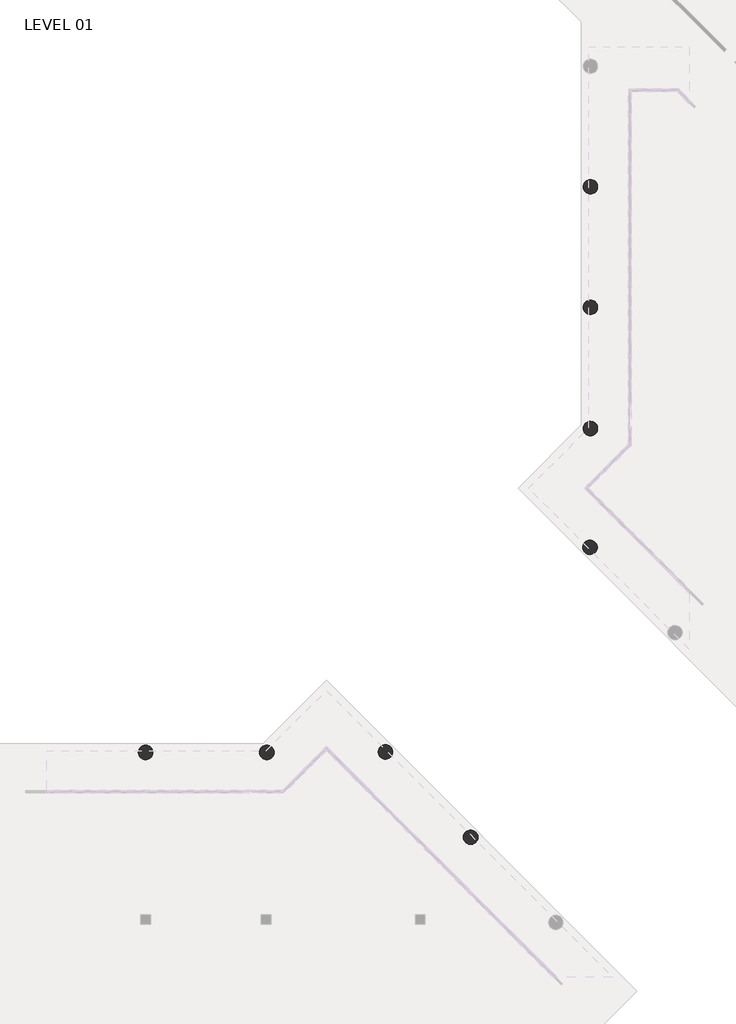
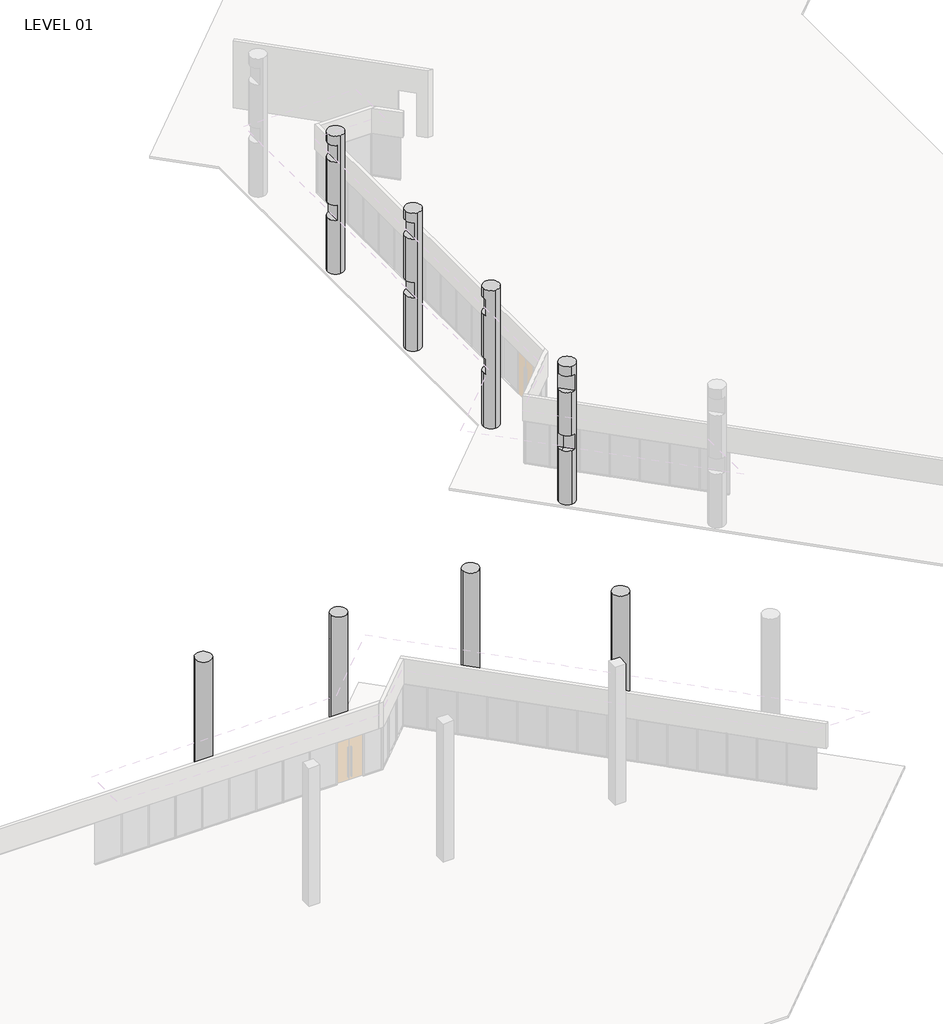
# One storey, part 20 of 24: 8 columns.
"""IFC4 building model written with IfcOpenShell, lengths in millimetres."""

from ifc_helpers import new_model, si_unit, frame, origin, place, context, project, spatial, circle_curve, element, save
from ifc_brep_helpers import plane_surface, cylinder_surface, advanced_brep

model = new_model("IFC4")

# Units and contexts
model_context = context("Model", 3, world=origin())
ifc_project = project(units=[si_unit("LENGTHUNIT", "METRE", prefix="MILLI")], contexts=[model_context])

# Site, building, storey
site = spatial("IfcSite", under=ifc_project)
building = spatial("IfcBuilding", under=site)
storey = spatial("IfcBuildingStorey", under=building, Name="LEVEL 01", Elevation=0.0)

# Columns
placement = place(None, origin())
element("IfcColumn", 1, ObjectType="Round Column : 36\" Diameter", at=placement, inside=storey, context=model_context, shape_type="AdvancedBrep", body=[
    advanced_brep(
    [(34093.15, 25578.4828721, 0.0), (33178.75, 25578.4828721, 0.0), (33635.95, 26035.6828721, 0.0), (34093.15, 25578.4828721, 8280.4), (33178.75, 25578.4828721, 8280.4), (33635.95, 26035.6828721, 8280.4), (33635.95, 26035.6828721, 7721.6), (33204.8977062, 25730.8828721, 7721.6), (33204.8977062, 25730.8828721, 6731.0), (33635.95, 26035.6828721, 6731.0), (33635.95, 26035.6828721, 4140.2), (33204.8977062, 25730.8828721, 4140.2), (33204.8977062, 25730.8828721, 3225.8), (33635.95, 26035.6828721, 3225.8), (34067.0022938, 25730.8828721, 3225.8), (34067.0022938, 25730.8828721, 4140.2), (34067.0022938, 25730.8828721, 6731.0), (34067.0022938, 25730.8828721, 7721.6)],
    [
        (0, 1, circle_curve(frame((33635.95, 25578.4828721, 0.0), z_axis=(0.0, 0.0, -1.0), x_axis=(1.0, 0.0, 0.0)), 457.2)),
        (1, 2, circle_curve(frame((33635.95, 25578.4828721, 0.0), z_axis=(0.0, 0.0, -1.0), x_axis=(1.0, 0.0, 0.0)), 457.2)),
        (2, 0, circle_curve(frame((33635.95, 25578.4828721, 0.0), z_axis=(0.0, 0.0, -1.0), x_axis=(1.0, 0.0, 0.0)), 457.2)),
        (0, 3),
        (3, 4, circle_curve(frame((33635.95, 25578.4828721, 8280.4), z_axis=(0.0, 0.0, -1.0), x_axis=(1.0, 0.0, 0.0)), 457.2)),
        (4, 1),
        (4, 5, circle_curve(frame((33635.95, 25578.4828721, 8280.4), z_axis=(0.0, 0.0, -1.0), x_axis=(1.0, 0.0, 0.0)), 457.2)),
        (5, 6),
        (6, 7, circle_curve(frame((33635.95, 25578.4828721, 7721.6), z_axis=(0.0, 0.0, 1.0), x_axis=(1.0, 0.0, 0.0)), 457.2)),
        (7, 8),
        (8, 9, circle_curve(frame((33635.95, 25578.4828721, 6731.0), z_axis=(0.0, 0.0, -1.0), x_axis=(1.0, 0.0, 0.0)), 457.2)),
        (9, 10),
        (10, 11, circle_curve(frame((33635.95, 25578.4828721, 4140.2), z_axis=(0.0, 0.0, 1.0), x_axis=(1.0, 0.0, 0.0)), 457.2)),
        (11, 12),
        (12, 13, circle_curve(frame((33635.95, 25578.4828721, 3225.8), z_axis=(0.0, 0.0, -1.0), x_axis=(1.0, 0.0, 0.0)), 457.2)),
        (13, 2),
        (13, 14, circle_curve(frame((33635.95, 25578.4828721, 3225.8), z_axis=(0.0, 0.0, -1.0), x_axis=(1.0, 0.0, 0.0)), 457.2)),
        (14, 15),
        (15, 10, circle_curve(frame((33635.95, 25578.4828721, 4140.2), z_axis=(0.0, 0.0, 1.0), x_axis=(1.0, 0.0, 0.0)), 457.2)),
        (9, 16, circle_curve(frame((33635.95, 25578.4828721, 6731.0), z_axis=(0.0, 0.0, -1.0), x_axis=(1.0, 0.0, 0.0)), 457.2)),
        (16, 17),
        (17, 6, circle_curve(frame((33635.95, 25578.4828721, 7721.6), z_axis=(0.0, 0.0, 1.0), x_axis=(1.0, 0.0, 0.0)), 457.2)),
        (5, 3, circle_curve(frame((33635.95, 25578.4828721, 8280.4), z_axis=(0.0, 0.0, -1.0), x_axis=(1.0, 0.0, 0.0)), 457.2)),
        (11, 15),
        (14, 12),
        (7, 17),
        (16, 8),
    ],
    [
        plane_surface(frame((34093.15, 25578.4828721, 0.0), z_axis=(0.0, 0.0, -1.0), x_axis=(0.0, -1.0, 0.0))),
        cylinder_surface(frame((33635.95, 25578.4828721, 0.0), z_axis=(0.0, 0.0, 1.0), x_axis=(1.0, 0.0, 0.0)), 457.2),
        plane_surface(frame((34093.15, 25578.4828721, 8280.4), z_axis=(0.0, 0.0, 1.0), x_axis=(0.0, 1.0, 0.0))),
        plane_surface(frame((15533.4616237, 25730.8828721, 3225.8), z_axis=(0.0, 1.0, 0.0), x_axis=(1.0, 0.0, 0.0))),
        plane_surface(frame((10691.7818041, 25730.8828721, 3225.8), z_axis=(0.0, 0.0, 1.0), x_axis=(0.0, 1.0, 0.0))),
        plane_surface(frame((41171.7818041, 25730.8828721, 4140.2), z_axis=(0.0, 0.0, -1.0), x_axis=(0.0, 1.0, 0.0))),
        plane_surface(frame((15533.4616237, 25730.8828721, 6731.0), z_axis=(0.0, 1.0, 0.0), x_axis=(1.0, 0.0, 0.0))),
        plane_surface(frame((10691.7818041, 25730.8828721, 6731.0), z_axis=(0.0, 0.0, 1.0), x_axis=(0.0, 1.0, 0.0))),
        plane_surface(frame((41171.7818041, 25730.8828721, 7721.6), z_axis=(0.0, 0.0, -1.0), x_axis=(0.0, 1.0, 0.0))),
    ],
    [
        (0, [[1, 2, 3]]),
        (1, [[-1, 4, 5, 6]]),
        (1, [[-2, -6, 7, 8, 9, 10, 11, 12, 13, 14, 15, 16]]),
        (1, [[-3, -16, 17, 18, 19, -12, 20, 21, 22, -8, 23, -4]]),
        (2, [[-5, -23, -7]]),
        (3, [[24, -18, 25, -14]]),
        (4, [[-25, -17, -15]]),
        (5, [[-24, -13, -19]]),
        (6, [[26, -21, 27, -10]]),
        (7, [[-27, -20, -11]]),
        (8, [[-26, -9, -22]]),
    ],
),
])
element("IfcColumn", 2, ObjectType="Round Column : 36\" Diameter", at=placement, inside=storey, context=model_context, shape_type="AdvancedBrep", body=[
    advanced_brep(
    [(41755.2340979, 25578.4828721, 0.0), (40840.8340979, 25578.4828721, 0.0), (41298.0340979, 26035.6828721, 0.0), (41755.2340979, 25578.4828721, 8280.4), (40840.8340979, 25578.4828721, 8280.4), (41298.0340979, 26035.6828721, 8280.4), (41298.0340979, 26035.6828721, 7721.6), (40866.9818041, 25730.8828721, 7721.6), (40866.9818041, 25730.8828721, 6731.0), (41298.0340979, 26035.6828721, 6731.0), (41298.0340979, 26035.6828721, 4140.2), (40866.9818041, 25730.8828721, 4140.2), (40866.9818041, 25730.8828721, 3225.8), (41298.0340979, 26035.6828721, 3225.8), (41495.0710245, 25991.0459456, 3225.8), (41495.0710245, 25991.0459456, 4140.2), (41495.0710245, 25991.0459456, 6731.0), (41495.0710245, 25991.0459456, 7721.6), (41234.907951, 25730.8828721, 4140.2), (41234.907951, 25730.8828721, 3225.8), (41234.907951, 25730.8828721, 7721.6), (41234.907951, 25730.8828721, 6731.0)],
    [
        (0, 1, circle_curve(frame((41298.0340979, 25578.4828721, 0.0), z_axis=(0.0, 0.0, -1.0), x_axis=(1.0, 0.0, 0.0)), 457.2)),
        (1, 2, circle_curve(frame((41298.0340979, 25578.4828721, 0.0), z_axis=(0.0, 0.0, -1.0), x_axis=(1.0, 0.0, 0.0)), 457.2)),
        (2, 0, circle_curve(frame((41298.0340979, 25578.4828721, 0.0), z_axis=(0.0, 0.0, -1.0), x_axis=(1.0, 0.0, 0.0)), 457.2)),
        (0, 3),
        (3, 4, circle_curve(frame((41298.0340979, 25578.4828721, 8280.4), z_axis=(0.0, 0.0, -1.0), x_axis=(1.0, 0.0, 0.0)), 457.2)),
        (4, 1),
        (4, 5, circle_curve(frame((41298.0340979, 25578.4828721, 8280.4), z_axis=(0.0, 0.0, -1.0), x_axis=(1.0, 0.0, 0.0)), 457.2)),
        (5, 6),
        (6, 7, circle_curve(frame((41298.0340979, 25578.4828721, 7721.6), z_axis=(0.0, 0.0, 1.0), x_axis=(1.0, 0.0, 0.0)), 457.2)),
        (7, 8),
        (8, 9, circle_curve(frame((41298.0340979, 25578.4828721, 6731.0), z_axis=(0.0, 0.0, -1.0), x_axis=(1.0, 0.0, 0.0)), 457.2)),
        (9, 10),
        (10, 11, circle_curve(frame((41298.0340979, 25578.4828721, 4140.2), z_axis=(0.0, 0.0, 1.0), x_axis=(1.0, 0.0, 0.0)), 457.2)),
        (11, 12),
        (12, 13, circle_curve(frame((41298.0340979, 25578.4828721, 3225.8), z_axis=(0.0, 0.0, -1.0), x_axis=(1.0, 0.0, 0.0)), 457.2)),
        (13, 2),
        (13, 14, circle_curve(frame((41298.0340979, 25578.4828721, 3225.8), z_axis=(0.0, 0.0, -1.0), x_axis=(1.0, 0.0, 0.0)), 457.2)),
        (14, 15),
        (15, 10, circle_curve(frame((41298.0340979, 25578.4828721, 4140.2), z_axis=(0.0, 0.0, 1.0), x_axis=(1.0, 0.0, 0.0)), 457.2)),
        (9, 16, circle_curve(frame((41298.0340979, 25578.4828721, 6731.0), z_axis=(0.0, 0.0, -1.0), x_axis=(1.0, 0.0, 0.0)), 457.2)),
        (16, 17),
        (17, 6, circle_curve(frame((41298.0340979, 25578.4828721, 7721.6), z_axis=(0.0, 0.0, 1.0), x_axis=(1.0, 0.0, 0.0)), 457.2)),
        (5, 3, circle_curve(frame((41298.0340979, 25578.4828721, 8280.4), z_axis=(0.0, 0.0, -1.0), x_axis=(1.0, 0.0, 0.0)), 457.2)),
        (11, 18),
        (18, 19),
        (19, 12),
        (19, 14),
        (15, 18),
        (20, 21),
        (21, 8),
        (7, 20),
        (21, 16),
        (17, 20),
    ],
    [
        plane_surface(frame((41755.2340979, 25578.4828721, 0.0), z_axis=(0.0, 0.0, -1.0), x_axis=(0.0, -1.0, 0.0))),
        cylinder_surface(frame((41298.0340979, 25578.4828721, 0.0), z_axis=(0.0, 0.0, 1.0), x_axis=(1.0, 0.0, 0.0)), 457.2),
        plane_surface(frame((41755.2340979, 25578.4828721, 8280.4), z_axis=(0.0, 0.0, 1.0), x_axis=(0.0, 1.0, 0.0))),
        plane_surface(frame((15533.4616237, 25730.8828721, 3225.8), z_axis=(0.0, 1.0, 0.0), x_axis=(1.0, 0.0, 0.0))),
        plane_surface(frame((10691.7818041, 25730.8828721, 3225.8), z_axis=(0.0, 0.0, 1.0), x_axis=(0.0, 1.0, 0.0))),
        plane_surface(frame((41171.7818041, 25730.8828721, 4140.2), z_axis=(0.0, 0.0, -1.0), x_axis=(0.0, 1.0, 0.0))),
        plane_surface(frame((41324.1818041, 25820.1567252, 3225.8), z_axis=(-0.7071067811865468, 0.7071067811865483, 0.0), x_axis=(0.7071067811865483, 0.7071067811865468, 0.0))),
        plane_surface(frame((15533.4616237, 25730.8828721, 6731.0), z_axis=(0.0, 1.0, 0.0), x_axis=(1.0, 0.0, 0.0))),
        plane_surface(frame((10691.7818041, 25730.8828721, 6731.0), z_axis=(0.0, 0.0, 1.0), x_axis=(0.0, 1.0, 0.0))),
        plane_surface(frame((41171.7818041, 25730.8828721, 7721.6), z_axis=(0.0, 0.0, -1.0), x_axis=(0.0, 1.0, 0.0))),
        plane_surface(frame((41324.1818041, 25820.1567252, 6731.0), z_axis=(-0.7071067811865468, 0.7071067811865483, 0.0), x_axis=(0.7071067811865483, 0.7071067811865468, 0.0))),
    ],
    [
        (0, [[1, 2, 3]]),
        (1, [[-1, 4, 5, 6]]),
        (1, [[-2, -6, 7, 8, 9, 10, 11, 12, 13, 14, 15, 16]]),
        (1, [[-3, -16, 17, 18, 19, -12, 20, 21, 22, -8, 23, -4]]),
        (2, [[-5, -23, -7]]),
        (3, [[24, 25, 26, -14]]),
        (4, [[-26, 27, -17, -15]]),
        (5, [[-24, -13, -19, 28]]),
        (6, [[-25, -28, -18, -27]]),
        (7, [[29, 30, -10, 31]]),
        (8, [[-30, 32, -20, -11]]),
        (9, [[-31, -9, -22, 33]]),
        (10, [[-29, -33, -21, -32]]),
    ],
),
])
element("IfcColumn", 3, ObjectType="Round Column : 36\" Diameter", at=placement, inside=storey, context=model_context, shape_type="AdvancedBrep", body=[
    advanced_brep(
    [(49261.307951, 25608.2408231, 0.0), (48346.907951, 25608.2408231, 0.0), (48804.107951, 26065.4408231, 0.0), (49261.307951, 25608.2408231, 3225.8), (49216.6710245, 25411.2038966, 3225.8), (49216.6710245, 25411.2038966, 4140.2), (49261.307951, 25608.2408231, 4140.2), (49261.307951, 25608.2408231, 6731.0), (49216.6710245, 25411.2038966, 6731.0), (49216.6710245, 25411.2038966, 7721.6), (49261.307951, 25608.2408231, 7721.6), (49261.307951, 25608.2408231, 8280.4), (48346.907951, 25608.2408231, 8280.4), (48804.107951, 26065.4408231, 8280.4), (48804.107951, 26065.4408231, 7721.6), (48607.0710245, 26020.8038966, 7721.6), (48607.0710245, 26020.8038966, 6731.0), (48804.107951, 26065.4408231, 6731.0), (48804.107951, 26065.4408231, 4140.2), (48607.0710245, 26020.8038966, 4140.2), (48607.0710245, 26020.8038966, 3225.8), (48804.107951, 26065.4408231, 3225.8), (49001.1448776, 26020.8038966, 3225.8), (49127.3971714, 25931.5300435, 3225.8), (49127.3971714, 25931.5300435, 6731.0), (49127.3971714, 25931.5300435, 7721.6), (48804.107951, 25823.7669701, 4140.2), (48804.107951, 25823.7669701, 3225.8), (49001.1448776, 26020.8038966, 4140.2), (49127.3971714, 25931.5300435, 4140.2)],
    [
        (0, 1, circle_curve(frame((48804.107951, 25608.2408231, 0.0), z_axis=(0.0, 0.0, -1.0), x_axis=(1.0, 0.0, 0.0)), 457.2)),
        (1, 2, circle_curve(frame((48804.107951, 25608.2408231, 0.0), z_axis=(0.0, 0.0, -1.0), x_axis=(1.0, 0.0, 0.0)), 457.2)),
        (2, 0, circle_curve(frame((48804.107951, 25608.2408231, 0.0), z_axis=(0.0, 0.0, -1.0), x_axis=(1.0, 0.0, 0.0)), 457.2)),
        (0, 3),
        (3, 4, circle_curve(frame((48804.107951, 25608.2408231, 3225.8), z_axis=(0.0, 0.0, -1.0), x_axis=(1.0, 0.0, 0.0)), 457.2)),
        (4, 5),
        (5, 6, circle_curve(frame((48804.107951, 25608.2408231, 4140.2), z_axis=(0.0, 0.0, 1.0), x_axis=(1.0, 0.0, 0.0)), 457.2)),
        (6, 7),
        (7, 8, circle_curve(frame((48804.107951, 25608.2408231, 6731.0), z_axis=(0.0, 0.0, -1.0), x_axis=(1.0, 0.0, 0.0)), 457.2)),
        (8, 9),
        (9, 10, circle_curve(frame((48804.107951, 25608.2408231, 7721.6), z_axis=(0.0, 0.0, 1.0), x_axis=(1.0, 0.0, 0.0)), 457.2)),
        (10, 11),
        (11, 12, circle_curve(frame((48804.107951, 25608.2408231, 8280.4), z_axis=(0.0, 0.0, -1.0), x_axis=(1.0, 0.0, 0.0)), 457.2)),
        (12, 1),
        (12, 13, circle_curve(frame((48804.107951, 25608.2408231, 8280.4), z_axis=(0.0, 0.0, -1.0), x_axis=(1.0, 0.0, 0.0)), 457.2)),
        (13, 14),
        (14, 15, circle_curve(frame((48804.107951, 25608.2408231, 7721.6), z_axis=(0.0, 0.0, 1.0), x_axis=(1.0, 0.0, 0.0)), 457.2)),
        (15, 16),
        (16, 17, circle_curve(frame((48804.107951, 25608.2408231, 6731.0), z_axis=(0.0, 0.0, -1.0), x_axis=(1.0, 0.0, 0.0)), 457.2)),
        (17, 18),
        (18, 19, circle_curve(frame((48804.107951, 25608.2408231, 4140.2), z_axis=(0.0, 0.0, 1.0), x_axis=(1.0, 0.0, 0.0)), 457.2)),
        (19, 20),
        (20, 21, circle_curve(frame((48804.107951, 25608.2408231, 3225.8), z_axis=(0.0, 0.0, -1.0), x_axis=(1.0, 0.0, 0.0)), 457.2)),
        (21, 2),
        (21, 22, circle_curve(frame((48804.107951, 25608.2408231, 3225.8), z_axis=(0.0, 0.0, -1.0), x_axis=(1.0, 0.0, 0.0)), 457.2)),
        (22, 23, circle_curve(frame((48804.107951, 25608.2408231, 3225.8), z_axis=(0.0, 0.0, -1.0), x_axis=(1.0, 0.0, 0.0)), 457.2)),
        (23, 3, circle_curve(frame((48804.107951, 25608.2408231, 3225.8), z_axis=(0.0, 0.0, -1.0), x_axis=(1.0, 0.0, 0.0)), 457.2)),
        (11, 13, circle_curve(frame((48804.107951, 25608.2408231, 8280.4), z_axis=(0.0, 0.0, 1.0), x_axis=(1.0, 0.0, 0.0)), 457.2)),
        (15, 9),
        (8, 16),
        (7, 24, circle_curve(frame((48804.107951, 25608.2408231, 6731.0), z_axis=(0.0, 0.0, 1.0), x_axis=(1.0, 0.0, 0.0)), 457.2)),
        (24, 17, circle_curve(frame((48804.107951, 25608.2408231, 6731.0), z_axis=(0.0, 0.0, 1.0), x_axis=(1.0, 0.0, 0.0)), 457.2)),
        (14, 25, circle_curve(frame((48804.107951, 25608.2408231, 7721.6), z_axis=(0.0, 0.0, -1.0), x_axis=(1.0, 0.0, 0.0)), 457.2)),
        (25, 10, circle_curve(frame((48804.107951, 25608.2408231, 7721.6), z_axis=(0.0, 0.0, -1.0), x_axis=(1.0, 0.0, 0.0)), 457.2)),
        (19, 26),
        (26, 27),
        (27, 20),
        (27, 22),
        (18, 28, circle_curve(frame((48804.107951, 25608.2408231, 4140.2), z_axis=(0.0, 0.0, -1.0), x_axis=(1.0, 0.0, 0.0)), 457.2)),
        (28, 26),
        (26, 5),
        (4, 27),
        (28, 29, circle_curve(frame((48804.107951, 25608.2408231, 4140.2), z_axis=(0.0, 0.0, -1.0), x_axis=(1.0, 0.0, 0.0)), 457.2)),
        (29, 6, circle_curve(frame((48804.107951, 25608.2408231, 4140.2), z_axis=(0.0, 0.0, -1.0), x_axis=(1.0, 0.0, 0.0)), 457.2)),
    ],
    [
        plane_surface(frame((49261.307951, 25608.2408231, 0.0), z_axis=(0.0, 0.0, -1.0), x_axis=(0.0, -1.0, 0.0))),
        cylinder_surface(frame((48804.107951, 25608.2408231, 0.0), z_axis=(0.0, 0.0, 1.0), x_axis=(1.0, 0.0, 0.0)), 457.2),
        plane_surface(frame((49261.307951, 25608.2408231, 8280.4), z_axis=(0.0, 0.0, 1.0), x_axis=(0.0, 1.0, 0.0))),
        plane_surface(frame((42965.9371939, 31661.9377271, 6731.0), z_axis=(0.7071067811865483, 0.7071067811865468, 0.0), x_axis=(0.7071067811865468, -0.7071067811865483, 0.0))),
        plane_surface(frame((44958.1869265, 29669.6879945, 6731.0), z_axis=(0.0, 0.0, 1.0000000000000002), x_axis=(0.7071067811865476, 0.7071067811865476, 0.0))),
        plane_surface(frame((64241.5801224, 10386.2947987, 7721.6), z_axis=(0.0, 0.0, -1.0000000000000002), x_axis=(0.7071067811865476, 0.7071067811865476, 0.0))),
        plane_surface(frame((44850.4238531, 29777.451068, 3225.8), z_axis=(0.7071067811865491, 0.7071067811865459, 0.0), x_axis=(0.7071067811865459, -0.7071067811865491, 0.0))),
        plane_surface(frame((44958.1869265, 29669.6879945, 3225.8), z_axis=(0.0, 0.0, 1.0), x_axis=(0.7071067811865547, 0.7071067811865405, 0.0))),
        plane_surface(frame((48696.3448776, 25931.5300435, 4140.2), z_axis=(0.0, 0.0, -1.0), x_axis=(0.7071067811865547, 0.7071067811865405, 0.0))),
        plane_surface(frame((44850.4238531, 29777.451068, 3225.8), z_axis=(0.7071067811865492, 0.7071067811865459, 0.0), x_axis=(0.7071067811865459, -0.7071067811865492, 0.0))),
        plane_surface(frame((48696.3448776, 25931.5300435, 3225.8), z_axis=(0.0, 0.0, 1.0), x_axis=(0.7071067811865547, 0.7071067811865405, 0.0))),
        plane_surface(frame((64241.5801224, 10386.2947987, 4140.2), z_axis=(0.0, 0.0, -1.0), x_axis=(0.7071067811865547, 0.7071067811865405, 0.0))),
    ],
    [
        (0, [[1, 2, 3]]),
        (1, [[-1, 4, 5, 6, 7, 8, 9, 10, 11, 12, 13, 14]]),
        (1, [[-2, -14, 15, 16, 17, 18, 19, 20, 21, 22, 23, 24]]),
        (1, [[-3, -24, 25, 26, 27, -4]]),
        (2, [[-13, 28, -15]]),
        (3, [[29, -10, 30, -18]]),
        (4, [[-30, -9, 31, 32, -19]]),
        (5, [[-29, -17, 33, 34, -11]]),
        (1, [[-28, -12, -34, -33, -16]]),
        (6, [[35, 36, 37, -22]]),
        (7, [[-37, 38, -25, -23]]),
        (8, [[-35, -21, 39, 40]]),
        (9, [[41, -6, 42, -36]]),
        (10, [[-42, -5, -27, -26, -38]]),
        (11, [[-41, -40, 43, 44, -7]]),
        (1, [[-32, -31, -8, -44, -43, -39, -20]]),
    ],
),
])
element("IfcColumn", 4, ObjectType="Round Column : 36\" Diameter", at=placement, inside=storey, context=model_context, shape_type="AdvancedBrep", body=[
    advanced_brep(
    [(54649.282951, 20220.2658231, 0.0), (53734.882951, 20220.2658231, 0.0), (54192.082951, 20677.4658231, 0.0), (54649.282951, 20220.2658231, 3225.8), (54604.6460245, 20023.2288966, 3225.8), (54604.6460245, 20023.2288966, 4140.2), (54649.282951, 20220.2658231, 4140.2), (54649.282951, 20220.2658231, 6731.0), (54604.6460245, 20023.2288966, 6731.0), (54604.6460245, 20023.2288966, 7721.6), (54649.282951, 20220.2658231, 7721.6), (54649.282951, 20220.2658231, 8280.4), (53734.882951, 20220.2658231, 8280.4), (54192.082951, 20677.4658231, 8280.4), (54192.082951, 20677.4658231, 7721.6), (53995.0460245, 20632.8288966, 7721.6), (53995.0460245, 20632.8288966, 6731.0), (54192.082951, 20677.4658231, 6731.0), (54192.082951, 20677.4658231, 4140.2), (53995.0460245, 20632.8288966, 4140.2), (53995.0460245, 20632.8288966, 3225.8), (54192.082951, 20677.4658231, 3225.8), (54515.3721714, 20543.5550435, 3225.8), (54515.3721714, 20543.5550435, 6731.0), (54515.3721714, 20543.5550435, 7721.6), (54515.3721714, 20543.5550435, 4140.2)],
    [
        (0, 1, circle_curve(frame((54192.082951, 20220.2658231, 0.0), z_axis=(0.0, 0.0, -1.0), x_axis=(1.0, 0.0, 0.0)), 457.2)),
        (1, 2, circle_curve(frame((54192.082951, 20220.2658231, 0.0), z_axis=(0.0, 0.0, -1.0), x_axis=(1.0, 0.0, 0.0)), 457.2)),
        (2, 0, circle_curve(frame((54192.082951, 20220.2658231, 0.0), z_axis=(0.0, 0.0, -1.0), x_axis=(1.0, 0.0, 0.0)), 457.2)),
        (0, 3),
        (3, 4, circle_curve(frame((54192.082951, 20220.2658231, 3225.8), z_axis=(0.0, 0.0, -1.0), x_axis=(1.0, 0.0, 0.0)), 457.2)),
        (4, 5),
        (5, 6, circle_curve(frame((54192.082951, 20220.2658231, 4140.2), z_axis=(0.0, 0.0, 1.0), x_axis=(1.0, 0.0, 0.0)), 457.2)),
        (6, 7),
        (7, 8, circle_curve(frame((54192.082951, 20220.2658231, 6731.0), z_axis=(0.0, 0.0, -1.0), x_axis=(1.0, 0.0, 0.0)), 457.2)),
        (8, 9),
        (9, 10, circle_curve(frame((54192.082951, 20220.2658231, 7721.6), z_axis=(0.0, 0.0, 1.0), x_axis=(1.0, 0.0, 0.0)), 457.2)),
        (10, 11),
        (11, 12, circle_curve(frame((54192.082951, 20220.2658231, 8280.4), z_axis=(0.0, 0.0, -1.0), x_axis=(1.0, 0.0, 0.0)), 457.2)),
        (12, 1),
        (12, 13, circle_curve(frame((54192.082951, 20220.2658231, 8280.4), z_axis=(0.0, 0.0, -1.0), x_axis=(1.0, 0.0, 0.0)), 457.2)),
        (13, 14),
        (14, 15, circle_curve(frame((54192.082951, 20220.2658231, 7721.6), z_axis=(0.0, 0.0, 1.0), x_axis=(1.0, 0.0, 0.0)), 457.2)),
        (15, 16),
        (16, 17, circle_curve(frame((54192.082951, 20220.2658231, 6731.0), z_axis=(0.0, 0.0, -1.0), x_axis=(1.0, 0.0, 0.0)), 457.2)),
        (17, 18),
        (18, 19, circle_curve(frame((54192.082951, 20220.2658231, 4140.2), z_axis=(0.0, 0.0, 1.0), x_axis=(1.0, 0.0, 0.0)), 457.2)),
        (19, 20),
        (20, 21, circle_curve(frame((54192.082951, 20220.2658231, 3225.8), z_axis=(0.0, 0.0, -1.0), x_axis=(1.0, 0.0, 0.0)), 457.2)),
        (21, 2),
        (21, 22, circle_curve(frame((54192.082951, 20220.2658231, 3225.8), z_axis=(0.0, 0.0, -1.0), x_axis=(1.0, 0.0, 0.0)), 457.2)),
        (22, 3, circle_curve(frame((54192.082951, 20220.2658231, 3225.8), z_axis=(0.0, 0.0, -1.0), x_axis=(1.0, 0.0, 0.0)), 457.2)),
        (11, 13, circle_curve(frame((54192.082951, 20220.2658231, 8280.4), z_axis=(0.0, 0.0, 1.0), x_axis=(1.0, 0.0, 0.0)), 457.2)),
        (15, 9),
        (8, 16),
        (7, 23, circle_curve(frame((54192.082951, 20220.2658231, 6731.0), z_axis=(0.0, 0.0, 1.0), x_axis=(1.0, 0.0, 0.0)), 457.2)),
        (23, 17, circle_curve(frame((54192.082951, 20220.2658231, 6731.0), z_axis=(0.0, 0.0, 1.0), x_axis=(1.0, 0.0, 0.0)), 457.2)),
        (14, 24, circle_curve(frame((54192.082951, 20220.2658231, 7721.6), z_axis=(0.0, 0.0, -1.0), x_axis=(1.0, 0.0, 0.0)), 457.2)),
        (24, 10, circle_curve(frame((54192.082951, 20220.2658231, 7721.6), z_axis=(0.0, 0.0, -1.0), x_axis=(1.0, 0.0, 0.0)), 457.2)),
        (19, 5),
        (4, 20),
        (18, 25, circle_curve(frame((54192.082951, 20220.2658231, 4140.2), z_axis=(0.0, 0.0, -1.0), x_axis=(1.0, 0.0, 0.0)), 457.2)),
        (25, 6, circle_curve(frame((54192.082951, 20220.2658231, 4140.2), z_axis=(0.0, 0.0, -1.0), x_axis=(1.0, 0.0, 0.0)), 457.2)),
    ],
    [
        plane_surface(frame((54649.282951, 20220.2658231, 0.0), z_axis=(0.0, 0.0, -1.0), x_axis=(0.0, -1.0, 0.0))),
        cylinder_surface(frame((54192.082951, 20220.2658231, 0.0), z_axis=(0.0, 0.0, 1.0), x_axis=(1.0, 0.0, 0.0)), 457.2),
        plane_surface(frame((54649.282951, 20220.2658231, 8280.4), z_axis=(0.0, 0.0, 1.0), x_axis=(0.0, 1.0, 0.0))),
        plane_surface(frame((42965.9371939, 31661.9377271, 6731.0), z_axis=(0.7071067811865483, 0.7071067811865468, 0.0), x_axis=(0.7071067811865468, -0.7071067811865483, 0.0))),
        plane_surface(frame((44958.1869265, 29669.6879945, 6731.0), z_axis=(0.0, 0.0, 1.0000000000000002), x_axis=(0.7071067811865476, 0.7071067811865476, 0.0))),
        plane_surface(frame((64241.5801224, 10386.2947987, 7721.6), z_axis=(0.0, 0.0, -1.0000000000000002), x_axis=(0.7071067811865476, 0.7071067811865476, 0.0))),
        plane_surface(frame((44850.4238531, 29777.451068, 3225.8), z_axis=(0.7071067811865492, 0.7071067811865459, 0.0), x_axis=(0.7071067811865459, -0.7071067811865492, 0.0))),
        plane_surface(frame((48696.3448776, 25931.5300435, 3225.8), z_axis=(0.0, 0.0, 1.0), x_axis=(0.7071067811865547, 0.7071067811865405, 0.0))),
        plane_surface(frame((64241.5801224, 10386.2947987, 4140.2), z_axis=(0.0, 0.0, -1.0), x_axis=(0.7071067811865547, 0.7071067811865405, 0.0))),
    ],
    [
        (0, [[1, 2, 3]]),
        (1, [[-1, 4, 5, 6, 7, 8, 9, 10, 11, 12, 13, 14]]),
        (1, [[-2, -14, 15, 16, 17, 18, 19, 20, 21, 22, 23, 24]]),
        (1, [[-3, -24, 25, 26, -4]]),
        (2, [[-13, 27, -15]]),
        (3, [[28, -10, 29, -18]]),
        (4, [[-29, -9, 30, 31, -19]]),
        (5, [[-28, -17, 32, 33, -11]]),
        (1, [[-27, -12, -33, -32, -16]]),
        (6, [[34, -6, 35, -22]]),
        (7, [[-35, -5, -26, -25, -23]]),
        (8, [[-34, -21, 36, 37, -7]]),
        (1, [[-31, -30, -8, -37, -36, -20]]),
    ],
),
])
element("IfcColumn", 5, ObjectType="Round Column : 36\" Diameter", at=placement, inside=storey, context=model_context, shape_type="AdvancedBrep", body=[
    advanced_brep(
    [(61765.4347164, 61785.1675885, 0.0), (61765.4347164, 60870.7675885, 0.0), (61308.2347164, 61327.9675885, 0.0), (61765.4347164, 61785.1675885, 8280.4), (61765.4347164, 60870.7675885, 8280.4), (61308.2347164, 61327.9675885, 3225.8), (61613.0347164, 61759.0198823, 3225.8), (61613.0347164, 61759.0198823, 4140.2), (61308.2347164, 61327.9675885, 4140.2), (61308.2347164, 61327.9675885, 6731.0), (61613.0347164, 61759.0198823, 6731.0), (61613.0347164, 61759.0198823, 7721.6), (61308.2347164, 61327.9675885, 7721.6), (61308.2347164, 61327.9675885, 8280.4), (61613.0347164, 60896.9152947, 7721.6), (61613.0347164, 60896.9152947, 6731.0), (61613.0347164, 60896.9152947, 4140.2), (61613.0347164, 60896.9152947, 3225.8)],
    [
        (0, 1, circle_curve(frame((61765.4347164, 61327.9675885, 0.0), z_axis=(0.0, 0.0, -1.0), x_axis=(0.0, -1.0, 0.0)), 457.2)),
        (1, 2, circle_curve(frame((61765.4347164, 61327.9675885, 0.0), z_axis=(0.0, 0.0, -1.0), x_axis=(0.0, -1.0, 0.0)), 457.2)),
        (2, 0, circle_curve(frame((61765.4347164, 61327.9675885, 0.0), z_axis=(0.0, 0.0, -1.0), x_axis=(0.0, -1.0, 0.0)), 457.2)),
        (0, 3),
        (3, 4, circle_curve(frame((61765.4347164, 61327.9675885, 8280.4), z_axis=(0.0, 0.0, -1.0), x_axis=(0.0, -1.0, 0.0)), 457.2)),
        (4, 1),
        (2, 5),
        (5, 6, circle_curve(frame((61765.4347164, 61327.9675885, 3225.8), z_axis=(0.0, 0.0, -1.0), x_axis=(0.0, -1.0, 0.0)), 457.2)),
        (6, 7),
        (7, 8, circle_curve(frame((61765.4347164, 61327.9675885, 4140.2), z_axis=(0.0, 0.0, 1.0), x_axis=(0.0, -1.0, 0.0)), 457.2)),
        (8, 9),
        (9, 10, circle_curve(frame((61765.4347164, 61327.9675885, 6731.0), z_axis=(0.0, 0.0, -1.0), x_axis=(0.0, -1.0, 0.0)), 457.2)),
        (10, 11),
        (11, 12, circle_curve(frame((61765.4347164, 61327.9675885, 7721.6), z_axis=(0.0, 0.0, 1.0), x_axis=(0.0, -1.0, 0.0)), 457.2)),
        (12, 13),
        (13, 3, circle_curve(frame((61765.4347164, 61327.9675885, 8280.4), z_axis=(0.0, 0.0, -1.0), x_axis=(0.0, -1.0, 0.0)), 457.2)),
        (4, 13, circle_curve(frame((61765.4347164, 61327.9675885, 8280.4), z_axis=(0.0, 0.0, -1.0), x_axis=(0.0, -1.0, 0.0)), 457.2)),
        (12, 14, circle_curve(frame((61765.4347164, 61327.9675885, 7721.6), z_axis=(0.0, 0.0, 1.0), x_axis=(0.0, -1.0, 0.0)), 457.2)),
        (14, 15),
        (15, 9, circle_curve(frame((61765.4347164, 61327.9675885, 6731.0), z_axis=(0.0, 0.0, -1.0), x_axis=(0.0, -1.0, 0.0)), 457.2)),
        (8, 16, circle_curve(frame((61765.4347164, 61327.9675885, 4140.2), z_axis=(0.0, 0.0, 1.0), x_axis=(0.0, -1.0, 0.0)), 457.2)),
        (16, 17),
        (17, 5, circle_curve(frame((61765.4347164, 61327.9675885, 3225.8), z_axis=(0.0, 0.0, -1.0), x_axis=(0.0, -1.0, 0.0)), 457.2)),
        (6, 17),
        (16, 7),
        (10, 15),
        (14, 11),
    ],
    [
        plane_surface(frame((61765.4347164, 60870.7675885, 0.0), z_axis=(0.0, 0.0, -1.0), x_axis=(1.0, 0.0, 0.0))),
        cylinder_surface(frame((61765.4347164, 61327.9675885, 0.0), z_axis=(0.0, 0.0, 1.0), x_axis=(0.0, -1.0, 0.0)), 457.2),
        plane_surface(frame((61765.4347164, 60870.7675885, 8280.4), z_axis=(0.0, 0.0, 1.0), x_axis=(-1.0, 0.0, 0.0))),
        plane_surface(frame((61613.0347164, 71810.4559648, 3225.8), z_axis=(-1.0, 0.0, 0.0), x_axis=(0.0, 1.0, 0.0))),
        plane_surface(frame((61308.2347164, 76652.1357844, 3225.8), z_axis=(0.0, 0.0, 1.0), x_axis=(1.0, 0.0, 0.0))),
        plane_surface(frame((61308.2347164, 46172.1357844, 4140.2), z_axis=(0.0, 0.0, -1.0), x_axis=(1.0, 0.0, 0.0))),
        plane_surface(frame((61613.0347164, 71810.4559648, 6731.0), z_axis=(-1.0, 0.0, 0.0), x_axis=(0.0, 1.0, 0.0))),
        plane_surface(frame((61308.2347164, 76652.1357844, 6731.0), z_axis=(0.0, 0.0, 1.0), x_axis=(1.0, 0.0, 0.0))),
        plane_surface(frame((61308.2347164, 46172.1357844, 7721.6), z_axis=(0.0, 0.0, -1.0), x_axis=(1.0, 0.0, 0.0))),
    ],
    [
        (0, [[1, 2, 3]]),
        (1, [[-1, 4, 5, 6]]),
        (1, [[-3, 7, 8, 9, 10, 11, 12, 13, 14, 15, 16, -4]]),
        (1, [[-2, -6, 17, -15, 18, 19, 20, -11, 21, 22, 23, -7]]),
        (2, [[-5, -16, -17]]),
        (3, [[-9, 24, -22, 25]]),
        (4, [[-8, -23, -24]]),
        (5, [[-10, -25, -21]]),
        (6, [[26, -19, 27, -13]]),
        (7, [[-26, -12, -20]]),
        (8, [[-27, -18, -14]]),
    ],
),
])
element("IfcColumn", 6, ObjectType="Round Column : 36\" Diameter", at=placement, inside=storey, context=model_context, shape_type="AdvancedBrep", body=[
    advanced_brep(
    [(61765.4347164, 54165.1675885, 0.0), (61765.4347164, 53250.7675885, 0.0), (61308.2347164, 53707.9675885, 0.0), (61765.4347164, 54165.1675885, 8280.4), (61765.4347164, 53250.7675885, 8280.4), (61308.2347164, 53707.9675885, 3225.8), (61613.0347164, 54139.0198823, 3225.8), (61613.0347164, 54139.0198823, 4140.2), (61308.2347164, 53707.9675885, 4140.2), (61308.2347164, 53707.9675885, 6731.0), (61613.0347164, 54139.0198823, 6731.0), (61613.0347164, 54139.0198823, 7721.6), (61308.2347164, 53707.9675885, 7721.6), (61308.2347164, 53707.9675885, 8280.4), (61613.0347164, 53276.9152947, 7721.6), (61613.0347164, 53276.9152947, 6731.0), (61613.0347164, 53276.9152947, 4140.2), (61613.0347164, 53276.9152947, 3225.8)],
    [
        (0, 1, circle_curve(frame((61765.4347164, 53707.9675885, 0.0), z_axis=(0.0, 0.0, -1.0), x_axis=(0.0, -1.0, 0.0)), 457.2)),
        (1, 2, circle_curve(frame((61765.4347164, 53707.9675885, 0.0), z_axis=(0.0, 0.0, -1.0), x_axis=(0.0, -1.0, 0.0)), 457.2)),
        (2, 0, circle_curve(frame((61765.4347164, 53707.9675885, 0.0), z_axis=(0.0, 0.0, -1.0), x_axis=(0.0, -1.0, 0.0)), 457.2)),
        (0, 3),
        (3, 4, circle_curve(frame((61765.4347164, 53707.9675885, 8280.4), z_axis=(0.0, 0.0, -1.0), x_axis=(0.0, -1.0, 0.0)), 457.2)),
        (4, 1),
        (2, 5),
        (5, 6, circle_curve(frame((61765.4347164, 53707.9675885, 3225.8), z_axis=(0.0, 0.0, -1.0), x_axis=(0.0, -1.0, 0.0)), 457.2)),
        (6, 7),
        (7, 8, circle_curve(frame((61765.4347164, 53707.9675885, 4140.2), z_axis=(0.0, 0.0, 1.0), x_axis=(0.0, -1.0, 0.0)), 457.2)),
        (8, 9),
        (9, 10, circle_curve(frame((61765.4347164, 53707.9675885, 6731.0), z_axis=(0.0, 0.0, -1.0), x_axis=(0.0, -1.0, 0.0)), 457.2)),
        (10, 11),
        (11, 12, circle_curve(frame((61765.4347164, 53707.9675885, 7721.6), z_axis=(0.0, 0.0, 1.0), x_axis=(0.0, -1.0, 0.0)), 457.2)),
        (12, 13),
        (13, 3, circle_curve(frame((61765.4347164, 53707.9675885, 8280.4), z_axis=(0.0, 0.0, -1.0), x_axis=(0.0, -1.0, 0.0)), 457.2)),
        (4, 13, circle_curve(frame((61765.4347164, 53707.9675885, 8280.4), z_axis=(0.0, 0.0, -1.0), x_axis=(0.0, -1.0, 0.0)), 457.2)),
        (12, 14, circle_curve(frame((61765.4347164, 53707.9675885, 7721.6), z_axis=(0.0, 0.0, 1.0), x_axis=(0.0, -1.0, 0.0)), 457.2)),
        (14, 15),
        (15, 9, circle_curve(frame((61765.4347164, 53707.9675885, 6731.0), z_axis=(0.0, 0.0, -1.0), x_axis=(0.0, -1.0, 0.0)), 457.2)),
        (8, 16, circle_curve(frame((61765.4347164, 53707.9675885, 4140.2), z_axis=(0.0, 0.0, 1.0), x_axis=(0.0, -1.0, 0.0)), 457.2)),
        (16, 17),
        (17, 5, circle_curve(frame((61765.4347164, 53707.9675885, 3225.8), z_axis=(0.0, 0.0, -1.0), x_axis=(0.0, -1.0, 0.0)), 457.2)),
        (6, 17),
        (16, 7),
        (10, 15),
        (14, 11),
    ],
    [
        plane_surface(frame((61765.4347164, 53250.7675885, 0.0), z_axis=(0.0, 0.0, -1.0), x_axis=(1.0, 0.0, 0.0))),
        cylinder_surface(frame((61765.4347164, 53707.9675885, 0.0), z_axis=(0.0, 0.0, 1.0), x_axis=(0.0, -1.0, 0.0)), 457.2),
        plane_surface(frame((61765.4347164, 53250.7675885, 8280.4), z_axis=(0.0, 0.0, 1.0), x_axis=(-1.0, 0.0, 0.0))),
        plane_surface(frame((61613.0347164, 71810.4559648, 3225.8), z_axis=(-1.0, 0.0, 0.0), x_axis=(0.0, 1.0, 0.0))),
        plane_surface(frame((61308.2347164, 76652.1357844, 3225.8), z_axis=(0.0, 0.0, 1.0), x_axis=(1.0, 0.0, 0.0))),
        plane_surface(frame((61308.2347164, 46172.1357844, 4140.2), z_axis=(0.0, 0.0, -1.0), x_axis=(1.0, 0.0, 0.0))),
        plane_surface(frame((61613.0347164, 71810.4559648, 6731.0), z_axis=(-1.0, 0.0, 0.0), x_axis=(0.0, 1.0, 0.0))),
        plane_surface(frame((61308.2347164, 76652.1357844, 6731.0), z_axis=(0.0, 0.0, 1.0), x_axis=(1.0, 0.0, 0.0))),
        plane_surface(frame((61308.2347164, 46172.1357844, 7721.6), z_axis=(0.0, 0.0, -1.0), x_axis=(1.0, 0.0, 0.0))),
    ],
    [
        (0, [[1, 2, 3]]),
        (1, [[-1, 4, 5, 6]]),
        (1, [[-3, 7, 8, 9, 10, 11, 12, 13, 14, 15, 16, -4]]),
        (1, [[-2, -6, 17, -15, 18, 19, 20, -11, 21, 22, 23, -7]]),
        (2, [[-5, -16, -17]]),
        (3, [[-9, 24, -22, 25]]),
        (4, [[-8, -23, -24]]),
        (5, [[-10, -25, -21]]),
        (6, [[26, -19, 27, -13]]),
        (7, [[-26, -12, -20]]),
        (8, [[-27, -18, -14]]),
    ],
),
])
element("IfcColumn", 7, ObjectType="Round Column : 36\" Diameter", at=placement, inside=storey, context=model_context, shape_type="AdvancedBrep", body=[
    advanced_brep(
    [(61765.4347164, 46503.0834906, 0.0), (61765.4347164, 45588.6834906, 0.0), (61308.2347164, 46045.8834906, 0.0), (61765.4347164, 46503.0834906, 8280.4), (61765.4347164, 45588.6834906, 8280.4), (61308.2347164, 46045.8834906, 3225.8), (61613.0347164, 46476.9357844, 3225.8), (61613.0347164, 46476.9357844, 4140.2), (61308.2347164, 46045.8834906, 4140.2), (61308.2347164, 46045.8834906, 6731.0), (61613.0347164, 46476.9357844, 6731.0), (61613.0347164, 46476.9357844, 7721.6), (61308.2347164, 46045.8834906, 7721.6), (61308.2347164, 46045.8834906, 8280.4), (61352.8716429, 45848.846564, 7721.6), (61352.8716429, 45848.846564, 6731.0), (61352.8716429, 45848.846564, 4140.2), (61352.8716429, 45848.846564, 3225.8), (61613.0347164, 46109.0096375, 3225.8), (61613.0347164, 46109.0096375, 4140.2), (61613.0347164, 46109.0096375, 6731.0), (61613.0347164, 46109.0096375, 7721.6)],
    [
        (0, 1, circle_curve(frame((61765.4347164, 46045.8834906, 0.0), z_axis=(0.0, 0.0, -1.0), x_axis=(0.0, -1.0, 0.0)), 457.2)),
        (1, 2, circle_curve(frame((61765.4347164, 46045.8834906, 0.0), z_axis=(0.0, 0.0, -1.0), x_axis=(0.0, -1.0, 0.0)), 457.2)),
        (2, 0, circle_curve(frame((61765.4347164, 46045.8834906, 0.0), z_axis=(0.0, 0.0, -1.0), x_axis=(0.0, -1.0, 0.0)), 457.2)),
        (0, 3),
        (3, 4, circle_curve(frame((61765.4347164, 46045.8834906, 8280.4), z_axis=(0.0, 0.0, -1.0), x_axis=(0.0, -1.0, 0.0)), 457.2)),
        (4, 1),
        (2, 5),
        (5, 6, circle_curve(frame((61765.4347164, 46045.8834906, 3225.8), z_axis=(0.0, 0.0, -1.0), x_axis=(0.0, -1.0, 0.0)), 457.2)),
        (6, 7),
        (7, 8, circle_curve(frame((61765.4347164, 46045.8834906, 4140.2), z_axis=(0.0, 0.0, 1.0), x_axis=(0.0, -1.0, 0.0)), 457.2)),
        (8, 9),
        (9, 10, circle_curve(frame((61765.4347164, 46045.8834906, 6731.0), z_axis=(0.0, 0.0, -1.0), x_axis=(0.0, -1.0, 0.0)), 457.2)),
        (10, 11),
        (11, 12, circle_curve(frame((61765.4347164, 46045.8834906, 7721.6), z_axis=(0.0, 0.0, 1.0), x_axis=(0.0, -1.0, 0.0)), 457.2)),
        (12, 13),
        (13, 3, circle_curve(frame((61765.4347164, 46045.8834906, 8280.4), z_axis=(0.0, 0.0, -1.0), x_axis=(0.0, -1.0, 0.0)), 457.2)),
        (4, 13, circle_curve(frame((61765.4347164, 46045.8834906, 8280.4), z_axis=(0.0, 0.0, -1.0), x_axis=(0.0, -1.0, 0.0)), 457.2)),
        (12, 14, circle_curve(frame((61765.4347164, 46045.8834906, 7721.6), z_axis=(0.0, 0.0, 1.0), x_axis=(0.0, -1.0, 0.0)), 457.2)),
        (14, 15),
        (15, 9, circle_curve(frame((61765.4347164, 46045.8834906, 6731.0), z_axis=(0.0, 0.0, -1.0), x_axis=(0.0, -1.0, 0.0)), 457.2)),
        (8, 16, circle_curve(frame((61765.4347164, 46045.8834906, 4140.2), z_axis=(0.0, 0.0, 1.0), x_axis=(0.0, -1.0, 0.0)), 457.2)),
        (16, 17),
        (17, 5, circle_curve(frame((61765.4347164, 46045.8834906, 3225.8), z_axis=(0.0, 0.0, -1.0), x_axis=(0.0, -1.0, 0.0)), 457.2)),
        (18, 19),
        (19, 7),
        (6, 18),
        (17, 18),
        (19, 16),
        (20, 21),
        (21, 11),
        (10, 20),
        (15, 20),
        (21, 14),
    ],
    [
        plane_surface(frame((61765.4347164, 45588.6834906, 0.0), z_axis=(0.0, 0.0, -1.0), x_axis=(1.0, 0.0, 0.0))),
        cylinder_surface(frame((61765.4347164, 46045.8834906, 0.0), z_axis=(0.0, 0.0, 1.0), x_axis=(0.0, -1.0, 0.0)), 457.2),
        plane_surface(frame((61765.4347164, 45588.6834906, 8280.4), z_axis=(0.0, 0.0, 1.0), x_axis=(-1.0, 0.0, 0.0))),
        plane_surface(frame((61613.0347164, 71810.4559648, 3225.8), z_axis=(-1.0, 0.0, 0.0), x_axis=(0.0, 1.0, 0.0))),
        plane_surface(frame((61308.2347164, 76652.1357844, 3225.8), z_axis=(0.0, 0.0, 1.0), x_axis=(1.0, 0.0, 0.0))),
        plane_surface(frame((61308.2347164, 46172.1357844, 4140.2), z_axis=(0.0, 0.0, -1.0), x_axis=(1.0, 0.0, 0.0))),
        plane_surface(frame((61523.7608633, 46019.7357844, 3225.8), z_axis=(-0.7071067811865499, 0.7071067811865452, 0.0), x_axis=(0.7071067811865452, 0.7071067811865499, 0.0))),
        plane_surface(frame((61613.0347164, 71810.4559648, 6731.0), z_axis=(-1.0, 0.0, 0.0), x_axis=(0.0, 1.0, 0.0))),
        plane_surface(frame((61308.2347164, 76652.1357844, 6731.0), z_axis=(0.0, 0.0, 1.0), x_axis=(1.0, 0.0, 0.0))),
        plane_surface(frame((61308.2347164, 46172.1357844, 7721.6), z_axis=(0.0, 0.0, -1.0), x_axis=(1.0, 0.0, 0.0))),
        plane_surface(frame((61523.7608633, 46019.7357844, 6731.0), z_axis=(-0.7071067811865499, 0.7071067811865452, 0.0), x_axis=(0.7071067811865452, 0.7071067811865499, 0.0))),
    ],
    [
        (0, [[1, 2, 3]]),
        (1, [[-1, 4, 5, 6]]),
        (1, [[-3, 7, 8, 9, 10, 11, 12, 13, 14, 15, 16, -4]]),
        (1, [[-2, -6, 17, -15, 18, 19, 20, -11, 21, 22, 23, -7]]),
        (2, [[-5, -16, -17]]),
        (3, [[24, 25, -9, 26]]),
        (4, [[-8, -23, 27, -26]]),
        (5, [[-10, -25, 28, -21]]),
        (6, [[-24, -27, -22, -28]]),
        (7, [[29, 30, -13, 31]]),
        (8, [[-31, -12, -20, 32]]),
        (9, [[-30, 33, -18, -14]]),
        (10, [[-29, -32, -19, -33]]),
    ],
),
])
element("IfcColumn", 8, ObjectType="Round Column : 36\" Diameter", at=placement, inside=storey, context=model_context, shape_type="AdvancedBrep", body=[
    advanced_brep(
    [(61735.6767654, 38997.0096375, 0.0), (61735.6767654, 38082.6096375, 0.0), (61278.4767654, 38539.8096375, 0.0), (61735.6767654, 38997.0096375, 8280.4), (61735.6767654, 38082.6096375, 8280.4), (61735.6767654, 38082.6096375, 7721.6), (61932.7136919, 38127.246564, 7721.6), (61932.7136919, 38127.246564, 6731.0), (61735.6767654, 38082.6096375, 6731.0), (61735.6767654, 38082.6096375, 4140.2), (61932.7136919, 38127.246564, 4140.2), (61932.7136919, 38127.246564, 3225.8), (61735.6767654, 38082.6096375, 3225.8), (61278.4767654, 38539.8096375, 3225.8), (61323.1136919, 38736.846564, 3225.8), (61323.1136919, 38736.846564, 4140.2), (61278.4767654, 38539.8096375, 4140.2), (61278.4767654, 38539.8096375, 6731.0), (61323.1136919, 38736.846564, 6731.0), (61323.1136919, 38736.846564, 7721.6), (61278.4767654, 38539.8096375, 7721.6), (61278.4767654, 38539.8096375, 8280.4), (61412.387545, 38216.5204171, 3225.8), (61323.1136919, 38342.7727109, 3225.8), (61412.387545, 38216.5204171, 6731.0), (61412.387545, 38216.5204171, 7721.6), (61520.1506185, 38539.8096375, 3225.8), (61520.1506185, 38539.8096375, 4140.2), (61323.1136919, 38342.7727109, 4140.2), (61412.387545, 38216.5204171, 4140.2)],
    [
        (0, 1, circle_curve(frame((61735.6767654, 38539.8096375, 0.0), z_axis=(0.0, 0.0, -1.0), x_axis=(0.0, -1.0, 0.0)), 457.2)),
        (1, 2, circle_curve(frame((61735.6767654, 38539.8096375, 0.0), z_axis=(0.0, 0.0, -1.0), x_axis=(0.0, -1.0, 0.0)), 457.2)),
        (2, 0, circle_curve(frame((61735.6767654, 38539.8096375, 0.0), z_axis=(0.0, 0.0, -1.0), x_axis=(0.0, -1.0, 0.0)), 457.2)),
        (0, 3),
        (3, 4, circle_curve(frame((61735.6767654, 38539.8096375, 8280.4), z_axis=(0.0, 0.0, -1.0), x_axis=(0.0, -1.0, 0.0)), 457.2)),
        (4, 5),
        (5, 6, circle_curve(frame((61735.6767654, 38539.8096375, 7721.6), z_axis=(0.0, 0.0, 1.0), x_axis=(0.0, -1.0, 0.0)), 457.2)),
        (6, 7),
        (7, 8, circle_curve(frame((61735.6767654, 38539.8096375, 6731.0), z_axis=(0.0, 0.0, -1.0), x_axis=(0.0, -1.0, 0.0)), 457.2)),
        (8, 9),
        (9, 10, circle_curve(frame((61735.6767654, 38539.8096375, 4140.2), z_axis=(0.0, 0.0, 1.0), x_axis=(0.0, -1.0, 0.0)), 457.2)),
        (10, 11),
        (11, 12, circle_curve(frame((61735.6767654, 38539.8096375, 3225.8), z_axis=(0.0, 0.0, -1.0), x_axis=(0.0, -1.0, 0.0)), 457.2)),
        (12, 1),
        (2, 13),
        (13, 14, circle_curve(frame((61735.6767654, 38539.8096375, 3225.8), z_axis=(0.0, 0.0, -1.0), x_axis=(0.0, -1.0, 0.0)), 457.2)),
        (14, 15),
        (15, 16, circle_curve(frame((61735.6767654, 38539.8096375, 4140.2), z_axis=(0.0, 0.0, 1.0), x_axis=(0.0, -1.0, 0.0)), 457.2)),
        (16, 17),
        (17, 18, circle_curve(frame((61735.6767654, 38539.8096375, 6731.0), z_axis=(0.0, 0.0, -1.0), x_axis=(0.0, -1.0, 0.0)), 457.2)),
        (18, 19),
        (19, 20, circle_curve(frame((61735.6767654, 38539.8096375, 7721.6), z_axis=(0.0, 0.0, 1.0), x_axis=(0.0, -1.0, 0.0)), 457.2)),
        (20, 21),
        (21, 3, circle_curve(frame((61735.6767654, 38539.8096375, 8280.4), z_axis=(0.0, 0.0, -1.0), x_axis=(0.0, -1.0, 0.0)), 457.2)),
        (12, 22, circle_curve(frame((61735.6767654, 38539.8096375, 3225.8), z_axis=(0.0, 0.0, -1.0), x_axis=(0.0, -1.0, 0.0)), 457.2)),
        (22, 23, circle_curve(frame((61735.6767654, 38539.8096375, 3225.8), z_axis=(0.0, 0.0, -1.0), x_axis=(0.0, -1.0, 0.0)), 457.2)),
        (23, 13, circle_curve(frame((61735.6767654, 38539.8096375, 3225.8), z_axis=(0.0, 0.0, -1.0), x_axis=(0.0, -1.0, 0.0)), 457.2)),
        (21, 4, circle_curve(frame((61735.6767654, 38539.8096375, 8280.4), z_axis=(0.0, 0.0, 1.0), x_axis=(0.0, -1.0, 0.0)), 457.2)),
        (18, 7),
        (6, 19),
        (17, 24, circle_curve(frame((61735.6767654, 38539.8096375, 6731.0), z_axis=(0.0, 0.0, 1.0), x_axis=(0.0, -1.0, 0.0)), 457.2)),
        (24, 8, circle_curve(frame((61735.6767654, 38539.8096375, 6731.0), z_axis=(0.0, 0.0, 1.0), x_axis=(0.0, -1.0, 0.0)), 457.2)),
        (5, 25, circle_curve(frame((61735.6767654, 38539.8096375, 7721.6), z_axis=(0.0, 0.0, -1.0), x_axis=(0.0, -1.0, 0.0)), 457.2)),
        (25, 20, circle_curve(frame((61735.6767654, 38539.8096375, 7721.6), z_axis=(0.0, 0.0, -1.0), x_axis=(0.0, -1.0, 0.0)), 457.2)),
        (14, 26),
        (26, 27),
        (27, 15),
        (23, 26),
        (27, 28),
        (28, 16, circle_curve(frame((61735.6767654, 38539.8096375, 4140.2), z_axis=(0.0, 0.0, -1.0), x_axis=(0.0, -1.0, 0.0)), 457.2)),
        (26, 11),
        (10, 27),
        (9, 29, circle_curve(frame((61735.6767654, 38539.8096375, 4140.2), z_axis=(0.0, 0.0, -1.0), x_axis=(0.0, -1.0, 0.0)), 457.2)),
        (29, 28, circle_curve(frame((61735.6767654, 38539.8096375, 4140.2), z_axis=(0.0, 0.0, -1.0), x_axis=(0.0, -1.0, 0.0)), 457.2)),
    ],
    [
        plane_surface(frame((61735.6767654, 38082.6096375, 0.0), z_axis=(0.0, 0.0, -1.0), x_axis=(1.0, 0.0, 0.0))),
        cylinder_surface(frame((61735.6767654, 38539.8096375, 0.0), z_axis=(0.0, 0.0, 1.0), x_axis=(0.0, -1.0, 0.0)), 457.2),
        plane_surface(frame((61735.6767654, 38082.6096375, 8280.4), z_axis=(0.0, 0.0, 1.0), x_axis=(-1.0, 0.0, 0.0))),
        plane_surface(frame((55681.9798614, 44377.9803946, 6731.0), z_axis=(-0.7071067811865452, -0.7071067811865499, 0.0), x_axis=(-0.7071067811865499, 0.7071067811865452, 0.0))),
        plane_surface(frame((57458.7034471, 42170.2045151, 6731.0), z_axis=(0.0, 0.0, 1.0000000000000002), x_axis=(0.7071067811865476, 0.7071067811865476, 0.0))),
        plane_surface(frame((76742.0966429, 22886.8113192, 7721.6), z_axis=(0.0, 0.0, -1.0000000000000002), x_axis=(0.7071067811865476, 0.7071067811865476, 0.0))),
        plane_surface(frame((57566.4665205, 42493.4937354, 3225.8), z_axis=(-0.7071067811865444, -0.7071067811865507, 0.0), x_axis=(-0.7071067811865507, 0.7071067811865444, 0.0))),
        plane_surface(frame((57458.7034471, 42170.2045151, 3225.8), z_axis=(0.0, 0.0, 1.0000000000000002), x_axis=(0.7071067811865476, 0.7071067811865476, 0.0))),
        plane_surface(frame((61196.8613981, 38432.046564, 4140.2), z_axis=(0.0, 0.0, -1.0000000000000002), x_axis=(0.7071067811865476, 0.7071067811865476, 0.0))),
        plane_surface(frame((61196.8613981, 38432.046564, 3225.8), z_axis=(0.0, 0.0, 1.0000000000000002), x_axis=(0.7071067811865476, 0.7071067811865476, 0.0))),
        plane_surface(frame((76742.0966429, 22886.8113192, 4140.2), z_axis=(0.0, 0.0, -1.0000000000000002), x_axis=(0.7071067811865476, 0.7071067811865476, 0.0))),
    ],
    [
        (0, [[1, 2, 3]]),
        (1, [[-1, 4, 5, 6, 7, 8, 9, 10, 11, 12, 13, 14]]),
        (1, [[-3, 15, 16, 17, 18, 19, 20, 21, 22, 23, 24, -4]]),
        (1, [[-2, -14, 25, 26, 27, -15]]),
        (2, [[-5, -24, 28]]),
        (3, [[29, -8, 30, -21]]),
        (4, [[-9, -29, -20, 31, 32]]),
        (5, [[-7, 33, 34, -22, -30]]),
        (1, [[-28, -23, -34, -33, -6]]),
        (6, [[35, 36, 37, -17]]),
        (7, [[-35, -16, -27, 38]]),
        (8, [[-37, 39, 40, -18]]),
        (6, [[41, -12, 42, -36]]),
        (9, [[-41, -38, -26, -25, -13]]),
        (10, [[-42, -11, 43, 44, -39]]),
        (1, [[-31, -19, -40, -44, -43, -10, -32]]),
    ],
),
])

save(model, "model.ifc")
